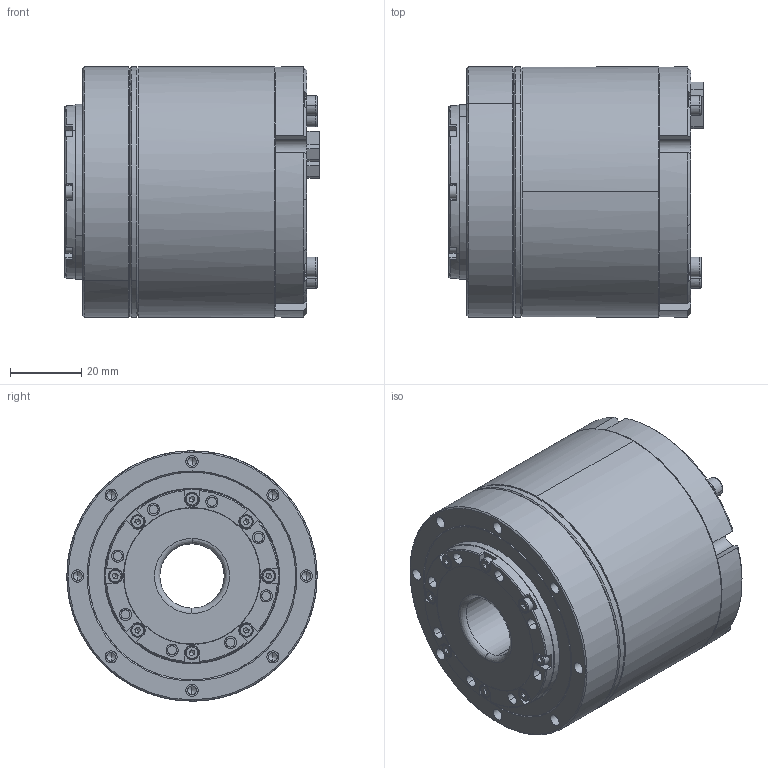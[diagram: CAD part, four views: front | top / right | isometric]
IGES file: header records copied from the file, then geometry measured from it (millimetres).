
Start section: SolidWorks IGES file using analytic representation for surfaces
Global section: file name: 87HG:\李鸿彬\00 官网需更新模型\00官网需更新模型 源文件\官网更新3D\I型\eRob70F 扁平型\eRob70F 扁平型 带刹车（V3）\eRob70F××I-B-XX-18EX_V3_MC2A.9X.XX\eRob70F××I-B-XX-18EX_V3_MC2A.9X.XX.IGS; native system: SolidWorks 2021; preprocessor: SolidWorks 2021; author: ZERO; date: 250402.154705; units: millimetre
Bounding box: 71.1 x 70 x 70 mm (x, y, z)
Surface area: 43143.1 mm2 (no closed solid volume)
Topology: 0 solids, 23 shells, 2483 faces, 6616 edges, 4297 vertices
Faces by surface type: plane 1623, revolution 648, bspline 212
